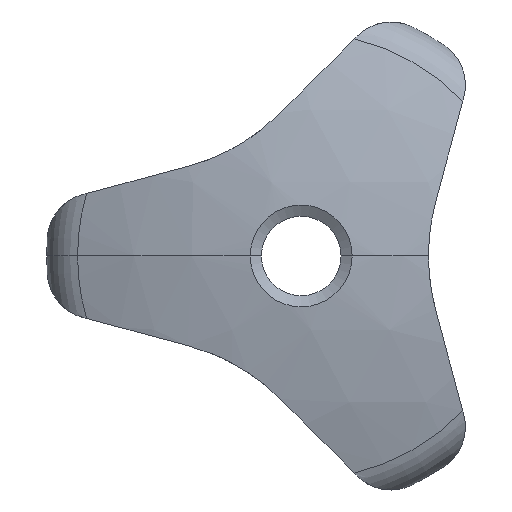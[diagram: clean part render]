
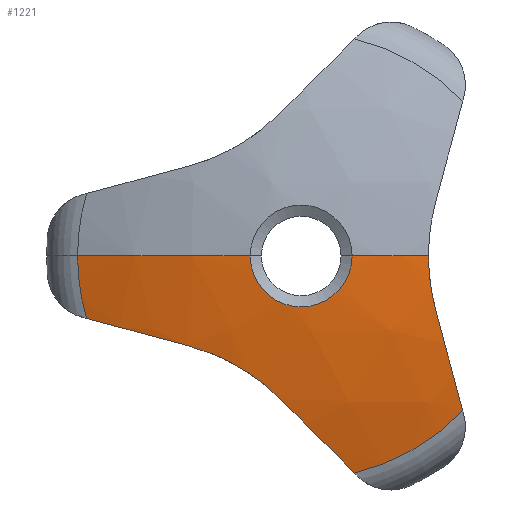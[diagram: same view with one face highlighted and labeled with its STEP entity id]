
A CAD part, left-side view. The second image highlights one B-rep face of the part: STEP entity #1221.
In plain terms, the highlighted spherical face has radius 40 mm.
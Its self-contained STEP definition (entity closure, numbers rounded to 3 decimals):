
#4 = EDGE_CURVE ( 'NONE', #15, #413, #460, .T. ) ;
#15 = VERTEX_POINT ( 'NONE', #686 ) ;
#22 = DIRECTION ( 'NONE',  ( 0., 1., 0. ) ) ;
#24 = CARTESIAN_POINT ( 'NONE',  ( -18.45, 0., 0. ) ) ;
#28 = DIRECTION ( 'NONE',  ( 0., 0., 1. ) ) ;
#51 = CARTESIAN_POINT ( 'NONE',  ( -20.152, 2.811, -7.701 ) ) ;
#62 = DIRECTION ( 'NONE',  ( 0., -1., 0. ) ) ;
#102 = ORIENTED_EDGE ( 'NONE', *, *, #283, .T. ) ;
#106 = CARTESIAN_POINT ( 'NONE',  ( 19., 5.151, -5.151 ) ) ;
#141 = CARTESIAN_POINT ( 'NONE',  ( -20.192, -8., 0. ) ) ;
#177 = DIRECTION ( 'NONE',  ( 0., 1., 0. ) ) ;
#184 = CARTESIAN_POINT ( 'NONE',  ( -20.092, 2.135, -8.219 ) ) ;
#199 = CARTESIAN_POINT ( 'NONE',  ( -18.45, -3.348, -13.65 ) ) ;
#205 = EDGE_CURVE ( 'NONE', #775, #413, #486, .T. ) ;
#209 = EDGE_LOOP ( 'NONE', ( #1198, #1179, #1329, #908, #1068, #102, #1174, #1525, #299, #761 ) ) ;
#238 = AXIS2_PLACEMENT_3D ( 'NONE', #24, #734, #177 ) ;
#251 = DIRECTION ( 'NONE',  ( 1., 0., 0. ) ) ;
#268 = CARTESIAN_POINT ( 'NONE',  ( -20.872, -3.2, 0. ) ) ;
#283 = EDGE_CURVE ( 'NONE', #1298, #15, #1247, .T. ) ;
#299 = ORIENTED_EDGE ( 'NONE', *, *, #1215, .T. ) ;
#320 = CIRCLE ( 'NONE', #465, 39.331 ) ;
#323 = VERTEX_POINT ( 'NONE', #1415 ) ;
#332 = CARTESIAN_POINT ( 'NONE',  ( -18.45, -10.147, -9.724 ) ) ;
#341 = CARTESIAN_POINT ( 'NONE',  ( -18.45, 14.054, 0. ) ) ;
#365 = CIRCLE ( 'NONE', #391, 14.054 ) ;
#373 = CARTESIAN_POINT ( 'NONE',  ( -18.45, 0., 0. ) ) ;
#391 = AXIS2_PLACEMENT_3D ( 'NONE', #373, #251, #859 ) ;
#405 = CARTESIAN_POINT ( 'NONE',  ( -19.954, 7.135, -5.629 ) ) ;
#409 = DIRECTION ( 'NONE',  ( 0., 0., 1. ) ) ;
#413 = VERTEX_POINT ( 'NONE', #199 ) ;
#460 = CIRCLE ( 'NONE', #536, 39.331 ) ;
#465 = AXIS2_PLACEMENT_3D ( 'NONE', #1233, #998, #1121 ) ;
#481 = EDGE_CURVE ( 'NONE', #1266, #1298, #1382, .T. ) ;
#486 = CIRCLE ( 'NONE', #238, 14.054 ) ;
#499 = CARTESIAN_POINT ( 'NONE',  ( -19.954, -8.443, -3.365 ) ) ;
#501 = EDGE_CURVE ( 'NONE', #1266, #1242, #365, .T. ) ;
#507 = EDGE_CURVE ( 'NONE', #542, #871, #937, .T. ) ;
#516 = CARTESIAN_POINT ( 'NONE',  ( 19., 0., 0. ) ) ;
#536 = AXIS2_PLACEMENT_3D ( 'NONE', #106, #922, #915 ) ;
#542 = VERTEX_POINT ( 'NONE', #840 ) ;
#559 = AXIS2_PLACEMENT_3D ( 'NONE', #1094, #1101, #22 ) ;
#596 = DIRECTION ( 'NONE',  ( 0., -0.259, 0.966 ) ) ;
#600 = CARTESIAN_POINT ( 'NONE',  ( -18.45, 13.495, -3.926 ) ) ;
#606 = B_SPLINE_CURVE_WITH_KNOTS ( 'NONE', 3,
 ( #499, #1449, #1063, #141 ),
 .UNSPECIFIED., .F., .F.,
 ( 4, 4 ),
 ( 0., 0.003 ),
 .UNSPECIFIED. ) ;
#610 = CIRCLE ( 'NONE', #683, 40. ) ;
#683 = AXIS2_PLACEMENT_3D ( 'NONE', #516, #1246, #874 ) ;
#686 = CARTESIAN_POINT ( 'NONE',  ( -19.954, 1.308, -8.994 ) ) ;
#729 = SPHERICAL_SURFACE ( 'NONE', #1331, 40. ) ;
#733 = AXIS2_PLACEMENT_3D ( 'NONE', #1076, #596, #947 ) ;
#734 = DIRECTION ( 'NONE',  ( 1., 0., 0. ) ) ;
#744 = VERTEX_POINT ( 'NONE', #927 ) ;
#761 = ORIENTED_EDGE ( 'NONE', *, *, #892, .T. ) ;
#775 = VERTEX_POINT ( 'NONE', #332 ) ;
#840 = CARTESIAN_POINT ( 'NONE',  ( -20.872, 3.2, 0. ) ) ;
#859 = DIRECTION ( 'NONE',  ( 0., 1., 0. ) ) ;
#871 = VERTEX_POINT ( 'NONE', #268 ) ;
#874 = DIRECTION ( 'NONE',  ( -1., 0., 0. ) ) ;
#878 = FACE_OUTER_BOUND ( 'NONE', #209, .T. ) ;
#884 = CARTESIAN_POINT ( 'NONE',  ( -19.954, 1.308, -8.994 ) ) ;
#892 = EDGE_CURVE ( 'NONE', #323, #744, #606, .T. ) ;
#894 = CARTESIAN_POINT ( 'NONE',  ( -20.191, 4.996, -6.354 ) ) ;
#908 = ORIENTED_EDGE ( 'NONE', *, *, #501, .F. ) ;
#915 = DIRECTION ( 'NONE',  ( 0., 0.707, 0.707 ) ) ;
#922 = DIRECTION ( 'NONE',  ( 0., -0.707, 0.707 ) ) ;
#927 = CARTESIAN_POINT ( 'NONE',  ( -20.192, -8., 0. ) ) ;
#937 = CIRCLE ( 'NONE', #559, 3.2 ) ;
#947 = DIRECTION ( 'NONE',  ( 0., 0.966, 0.259 ) ) ;
#998 = DIRECTION ( 'NONE',  ( 0., 0.966, -0.259 ) ) ;
#1063 = CARTESIAN_POINT ( 'NONE',  ( -20.192, -8., -1.143 ) ) ;
#1068 = ORIENTED_EDGE ( 'NONE', *, *, #481, .T. ) ;
#1076 = CARTESIAN_POINT ( 'NONE',  ( 19., 1.885, -7.036 ) ) ;
#1093 = DIRECTION ( 'NONE',  ( 0., 1., 0. ) ) ;
#1094 = CARTESIAN_POINT ( 'NONE',  ( -20.872, 0., 0. ) ) ;
#1099 = CARTESIAN_POINT ( 'NONE',  ( 19., 0., 0. ) ) ;
#1101 = DIRECTION ( 'NONE',  ( -1., 0., 0. ) ) ;
#1121 = DIRECTION ( 'NONE',  ( 0., -0.259, -0.966 ) ) ;
#1130 = CARTESIAN_POINT ( 'NONE',  ( 19., 0., 0. ) ) ;
#1133 = CARTESIAN_POINT ( 'NONE',  ( -20.187, 3.517, -7.218 ) ) ;
#1174 = ORIENTED_EDGE ( 'NONE', *, *, #4, .T. ) ;
#1179 = ORIENTED_EDGE ( 'NONE', *, *, #507, .F. ) ;
#1198 = ORIENTED_EDGE ( 'NONE', *, *, #1402, .F. ) ;
#1208 = CARTESIAN_POINT ( 'NONE',  ( -19.954, 7.135, -5.629 ) ) ;
#1215 = EDGE_CURVE ( 'NONE', #775, #323, #320, .T. ) ;
#1221 = ADVANCED_FACE ( 'NONE', ( #878 ), #729, .T. ) ;
#1233 = CARTESIAN_POINT ( 'NONE',  ( 19., -7.036, 1.885 ) ) ;
#1242 = VERTEX_POINT ( 'NONE', #341 ) ;
#1246 = DIRECTION ( 'NONE',  ( 0., 0., -1. ) ) ;
#1247 = B_SPLINE_CURVE_WITH_KNOTS ( 'NONE', 3,
 ( #405, #1501, #894, #1250, #1133, #1469, #51, #184, #1373, #884 ),
 .UNSPECIFIED., .F., .F.,
 ( 4, 2, 2, 2, 4 ),
 ( 0., 0.003, 0.004, 0.005, 0.007 ),
 .UNSPECIFIED. ) ;
#1250 = CARTESIAN_POINT ( 'NONE',  ( -20.192, 3.761, -7.066 ) ) ;
#1262 = AXIS2_PLACEMENT_3D ( 'NONE', #1130, #409, #62 ) ;
#1266 = VERTEX_POINT ( 'NONE', #600 ) ;
#1298 = VERTEX_POINT ( 'NONE', #1208 ) ;
#1329 = ORIENTED_EDGE ( 'NONE', *, *, #1365, .T. ) ;
#1331 = AXIS2_PLACEMENT_3D ( 'NONE', #1099, #28, #1093 ) ;
#1365 = EDGE_CURVE ( 'NONE', #542, #1242, #610, .T. ) ;
#1373 = CARTESIAN_POINT ( 'NONE',  ( -20.033, 1.709, -8.593 ) ) ;
#1382 = CIRCLE ( 'NONE', #733, 39.331 ) ;
#1402 = EDGE_CURVE ( 'NONE', #871, #744, #1533, .T. ) ;
#1415 = CARTESIAN_POINT ( 'NONE',  ( -19.954, -8.443, -3.365 ) ) ;
#1449 = CARTESIAN_POINT ( 'NONE',  ( -20.113, -8.148, -2.265 ) ) ;
#1469 = CARTESIAN_POINT ( 'NONE',  ( -20.167, 3.042, -7.535 ) ) ;
#1501 = CARTESIAN_POINT ( 'NONE',  ( -20.112, 6.038, -5.923 ) ) ;
#1525 = ORIENTED_EDGE ( 'NONE', *, *, #205, .F. ) ;
#1533 = CIRCLE ( 'NONE', #1262, 40. ) ;
